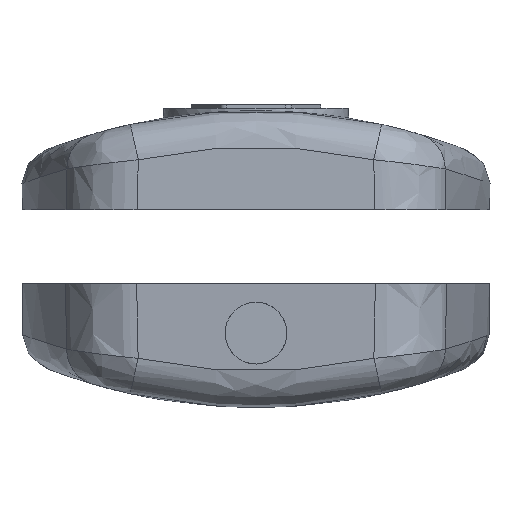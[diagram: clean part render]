
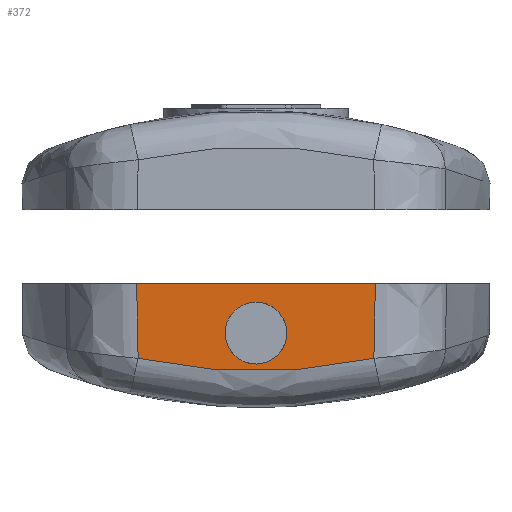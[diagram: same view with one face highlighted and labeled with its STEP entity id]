
A CAD part, front view. The second image highlights one B-rep face of the part: STEP entity #372.
In plain terms, the highlighted planar face has unit normal (0, -1, -0.026).
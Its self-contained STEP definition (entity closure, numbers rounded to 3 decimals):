
#194=PLANE('',#2139);
#236=LINE('',#3627,#298);
#298=VECTOR('',#2359,1.);
#362=ELLIPSE('',#2137,2.501,2.5);
#363=ELLIPSE('',#2138,44.015,44.);
#372=ADVANCED_FACE('',(#569,#570),#194,.T.);
#569=FACE_BOUND('',#681,.T.);
#570=FACE_BOUND('',#682,.T.);
#681=EDGE_LOOP('',(#1011));
#682=EDGE_LOOP('',(#1012,#1013,#1014,#1015));
#1011=ORIENTED_EDGE('',*,*,#1774,.F.);
#1012=ORIENTED_EDGE('',*,*,#1775,.T.);
#1013=ORIENTED_EDGE('',*,*,#1776,.T.);
#1014=ORIENTED_EDGE('',*,*,#1777,.T.);
#1015=ORIENTED_EDGE('',*,*,#1778,.T.);
#1577=VERTEX_POINT('',#3607);
#1578=VERTEX_POINT('',#3615);
#1579=VERTEX_POINT('',#3616);
#1580=VERTEX_POINT('',#3618);
#1581=VERTEX_POINT('',#3626);
#1774=EDGE_CURVE('',#1577,#1577,#362,.T.);
#1775=EDGE_CURVE('',#1578,#1579,#2052,.T.);
#1776=EDGE_CURVE('',#1579,#1580,#363,.T.);
#1777=EDGE_CURVE('',#1580,#1581,#2053,.T.);
#1778=EDGE_CURVE('',#1581,#1578,#236,.T.);
#2052=B_SPLINE_CURVE_WITH_KNOTS('',3,(#3608,#3609,#3610,#3611,#3612,#3613,
#3614),.UNSPECIFIED.,.F.,.F.,(4,3,4),(0.,0.52,1.),
 .UNSPECIFIED.);
#2053=B_SPLINE_CURVE_WITH_KNOTS('',3,(#3619,#3620,#3621,#3622,#3623,#3624,
#3625),.UNSPECIFIED.,.F.,.F.,(4,3,4),(0.,0.48,1.),
 .UNSPECIFIED.);
#2137=AXIS2_PLACEMENT_3D('',#3606,#2355,#2356);
#2138=AXIS2_PLACEMENT_3D('',#3617,#2357,#2358);
#2139=AXIS2_PLACEMENT_3D('',#3628,#2360,#2361);
#2355=DIRECTION('',(0.,-1.,-0.026));
#2356=DIRECTION('',(0.,-0.026,1.));
#2357=DIRECTION('',(0.,-1.,-0.026));
#2358=DIRECTION('',(0.,-0.026,1.));
#2359=DIRECTION('',(-1.,0.,0.));
#2360=DIRECTION('',(0.,-1.,-0.026));
#2361=DIRECTION('',(0.,-0.026,1.));
#3606=CARTESIAN_POINT('',(19.,0.105,-11.988));
#3607=CARTESIAN_POINT('',(19.,0.039,-9.488));
#3608=CARTESIAN_POINT('',(9.346,0.,-7.988));
#3609=CARTESIAN_POINT('',(9.367,0.027,-9.036));
#3610=CARTESIAN_POINT('',(9.388,0.055,-10.083));
#3611=CARTESIAN_POINT('',(9.408,0.082,-11.13));
#3612=CARTESIAN_POINT('',(9.428,0.108,-12.098));
#3613=CARTESIAN_POINT('',(9.447,0.133,-13.065));
#3614=CARTESIAN_POINT('',(9.466,0.158,-14.033));
#3615=CARTESIAN_POINT('',(9.346,0.,-7.988));
#3616=CARTESIAN_POINT('',(9.466,0.158,-14.033));
#3617=CARTESIAN_POINT('',(19.,-0.967,28.921));
#3618=CARTESIAN_POINT('',(28.534,0.158,-14.033));
#3619=CARTESIAN_POINT('',(28.534,0.158,-14.033));
#3620=CARTESIAN_POINT('',(28.553,0.133,-13.065));
#3621=CARTESIAN_POINT('',(28.572,0.108,-12.098));
#3622=CARTESIAN_POINT('',(28.592,0.082,-11.13));
#3623=CARTESIAN_POINT('',(28.612,0.055,-10.083));
#3624=CARTESIAN_POINT('',(28.633,0.027,-9.036));
#3625=CARTESIAN_POINT('',(28.654,0.,-7.988));
#3626=CARTESIAN_POINT('',(28.654,0.,-7.988));
#3627=CARTESIAN_POINT('',(19.,0.,-7.988));
#3628=CARTESIAN_POINT('',(19.,0.,-7.988));
